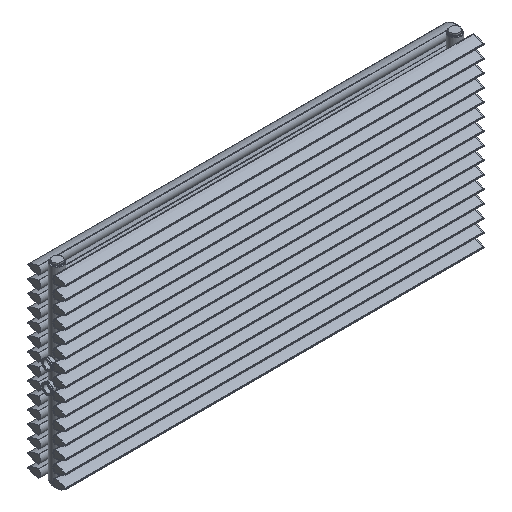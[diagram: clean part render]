
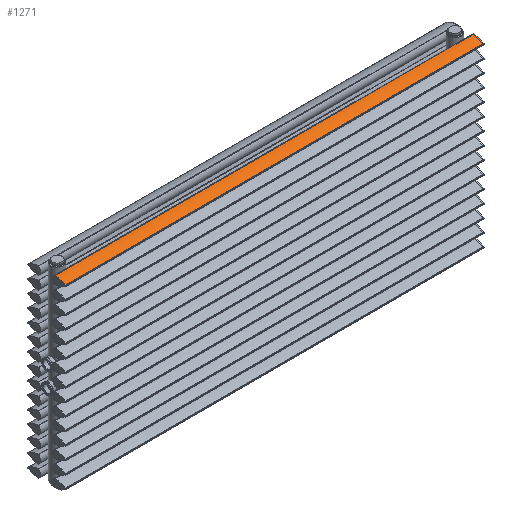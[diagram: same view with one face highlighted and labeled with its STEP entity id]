
A CAD part, isometric view. The second image highlights one B-rep face of the part: STEP entity #1271.
In plain terms, the highlighted cylindrical face has radius 51.638 mm (diameter 103.277 mm), a partial arc.
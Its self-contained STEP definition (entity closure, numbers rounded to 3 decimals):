
#15=LINE('',#3267,#49);
#16=LINE('',#3270,#50);
#49=VECTOR('',#1666,10.);
#50=VECTOR('',#1669,10.);
#443=FACE_OUTER_BOUND('',#575,.T.);
#575=EDGE_LOOP('',(#1078,#1079,#1080,#1081));
#630=CIRCLE('',#1419,51.638);
#631=CIRCLE('',#1420,51.638);
#735=VERTEX_POINT('',#3263);
#736=VERTEX_POINT('',#3264);
#737=VERTEX_POINT('',#3266);
#738=VERTEX_POINT('',#3268);
#857=EDGE_CURVE('',#735,#736,#630,.T.);
#858=EDGE_CURVE('',#735,#737,#15,.T.);
#859=EDGE_CURVE('',#738,#737,#631,.T.);
#860=EDGE_CURVE('',#736,#738,#16,.T.);
#1078=ORIENTED_EDGE('',*,*,#857,.F.);
#1079=ORIENTED_EDGE('',*,*,#858,.T.);
#1080=ORIENTED_EDGE('',*,*,#859,.F.);
#1081=ORIENTED_EDGE('',*,*,#860,.F.);
#1222=CYLINDRICAL_SURFACE('',#1418,51.638);
#1271=ADVANCED_FACE('',(#443),#1222,.T.);
#1418=AXIS2_PLACEMENT_3D('',#3262,#1662,#1663);
#1419=AXIS2_PLACEMENT_3D('',#3265,#1664,#1665);
#1420=AXIS2_PLACEMENT_3D('',#3269,#1667,#1668);
#1662=DIRECTION('center_axis',(0.,0.,-1.));
#1663=DIRECTION('ref_axis',(0.837,-0.547,0.));
#1664=DIRECTION('center_axis',(0.,0.,1.));
#1665=DIRECTION('ref_axis',(0.837,-0.547,0.));
#1666=DIRECTION('',(0.,0.,-1.));
#1667=DIRECTION('center_axis',(0.,0.,-1.));
#1668=DIRECTION('ref_axis',(0.837,-0.547,0.));
#1669=DIRECTION('',(0.,0.,-1.));
#3262=CARTESIAN_POINT('Origin',(-41.424,-0.617,0.));
#3263=CARTESIAN_POINT('',(1.804,-28.863,0.));
#3264=CARTESIAN_POINT('',(10.063,-4.573,0.));
#3265=CARTESIAN_POINT('Origin',(-41.424,-0.617,0.));
#3266=CARTESIAN_POINT('',(1.804,-28.863,-1000.));
#3267=CARTESIAN_POINT('',(1.804,-28.863,0.));
#3268=CARTESIAN_POINT('',(10.063,-4.573,-1000.));
#3269=CARTESIAN_POINT('Origin',(-41.424,-0.617,-1000.));
#3270=CARTESIAN_POINT('',(10.063,-4.573,0.));
